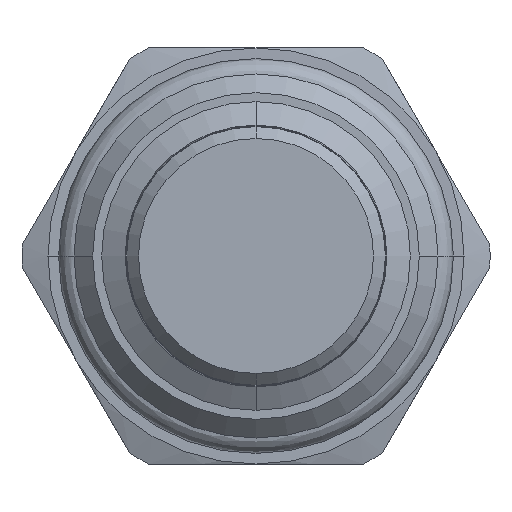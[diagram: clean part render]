
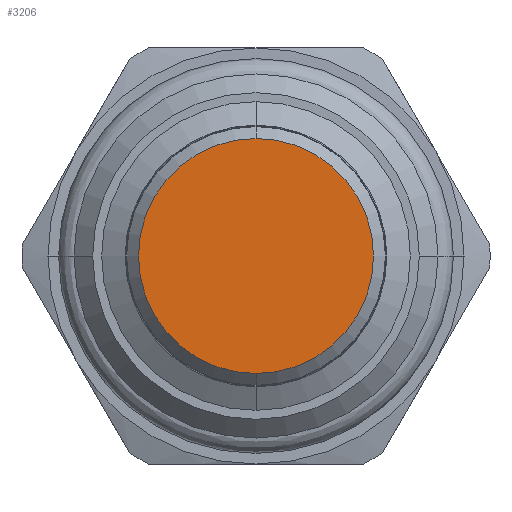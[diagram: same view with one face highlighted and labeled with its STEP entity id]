
A CAD part, front view. The second image highlights one B-rep face of the part: STEP entity #3206.
In plain terms, the highlighted planar face has unit normal (0, -1, 0).
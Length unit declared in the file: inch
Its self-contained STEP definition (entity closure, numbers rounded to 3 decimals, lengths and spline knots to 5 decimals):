
#1247=CARTESIAN_POINT('',(0.,-1.253,0.));
#1248=DIRECTION('',(0.,1.,0.));
#1249=DIRECTION('',(0.,0.,1.));
#1250=AXIS2_PLACEMENT_3D('',#1247,#1248,#1249);
#1261=CARTESIAN_POINT('',(0.,-1.253,0.));
#1262=DIRECTION('',(0.,1.,0.));
#1263=DIRECTION('',(0.,0.,-1.));
#1264=AXIS2_PLACEMENT_3D('',#1261,#1262,#1263);
#1313=CARTESIAN_POINT('',(0.,-1.253,-0.2825));
#1314=CARTESIAN_POINT('',(0.,-1.253,0.2825));
#1315=VERTEX_POINT('',#1313);
#1316=VERTEX_POINT('',#1314);
#3197=CARTESIAN_POINT('',(0.,-1.253,0.));
#3198=DIRECTION('',(0.,-1.,0.));
#3199=DIRECTION('',(0.,0.,-1.));
#3200=AXIS2_PLACEMENT_3D('',#3197,#3198,#3199);
#3201=PLANE('',#3200);
#3202=ORIENTED_EDGE('',*,*,#3177,.T.);
#3203=ORIENTED_EDGE('',*,*,#3191,.T.);
#3204=EDGE_LOOP('',(#3202,#3203));
#3205=FACE_OUTER_BOUND('',#3204,.F.);
#3206=ADVANCED_FACE('',(#3205),#3201,.T.);
#1251=CIRCLE('',#1250,0.2825);
#1265=CIRCLE('',#1264,0.2825);
#3177=EDGE_CURVE('',#1316,#1315,#1251,.T.);
#3191=EDGE_CURVE('',#1315,#1316,#1265,.T.);
